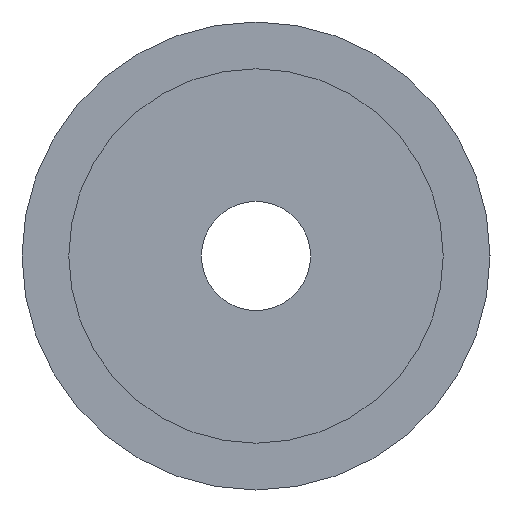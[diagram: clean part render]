
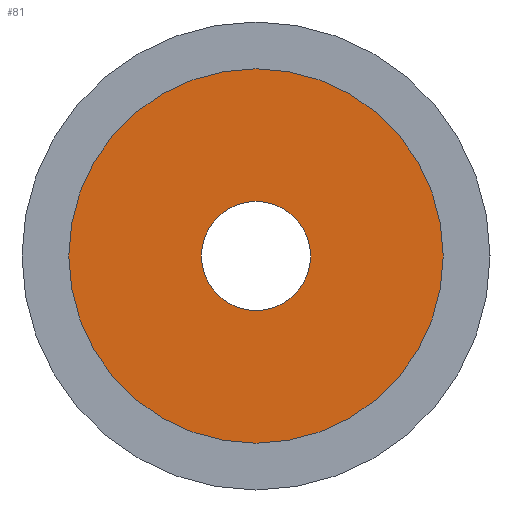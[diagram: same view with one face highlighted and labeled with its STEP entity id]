
A CAD part, left-side view. The second image highlights one B-rep face of the part: STEP entity #81.
In plain terms, the highlighted planar face has unit normal (-1, 0, 0).
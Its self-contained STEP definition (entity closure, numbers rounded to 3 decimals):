
#22 = VERTEX_POINT ( 'NONE', #134 ) ;
#24 = EDGE_CURVE ( 'NONE', #25, #22, #133, .T. ) ;
#25 = VERTEX_POINT ( 'NONE', #128 ) ;
#43 = VERTEX_POINT ( 'NONE', #254 ) ;
#49 = EDGE_CURVE ( 'NONE', #43, #50, #299, .T. ) ;
#50 = VERTEX_POINT ( 'NONE', #294 ) ;
#81 = ADVANCED_FACE ( 'NONE', ( #283, #282 ), #281, .F. ) ;
#82 = EDGE_LOOP ( 'NONE', ( #83, #85 ) ) ;
#83 = ORIENTED_EDGE ( 'NONE', *, *, #84, .F. ) ;
#84 = EDGE_CURVE ( 'NONE', #50, #43, #276, .T. ) ;
#85 = ORIENTED_EDGE ( 'NONE', *, *, #49, .F. ) ;
#86 = EDGE_LOOP ( 'NONE', ( #116, #117 ) ) ;
#116 = ORIENTED_EDGE ( 'NONE', *, *, #24, .T. ) ;
#117 = ORIENTED_EDGE ( 'NONE', *, *, #118, .T. ) ;
#118 = EDGE_CURVE ( 'NONE', #22, #25, #418, .T. ) ;
#128 = CARTESIAN_POINT ( 'NONE',  ( 0., 0., 3.5 ) ) ;
#129 = DIRECTION ( 'NONE',  ( 0., 0., -1. ) ) ;
#130 = DIRECTION ( 'NONE',  ( 1., 0., 0. ) ) ;
#131 = CARTESIAN_POINT ( 'NONE',  ( 0., 0., 0. ) ) ;
#132 = AXIS2_PLACEMENT_3D ( 'NONE', #131, #130, #129 ) ;
#133 = CIRCLE ( 'NONE', #132, 3.5 ) ;
#134 = CARTESIAN_POINT ( 'NONE',  ( 0., 0., -3.5 ) ) ;
#254 = CARTESIAN_POINT ( 'NONE',  ( 0., 0., -12. ) ) ;
#272 = DIRECTION ( 'NONE',  ( 0., 0., -1. ) ) ;
#273 = DIRECTION ( 'NONE',  ( 1., 0., 0. ) ) ;
#274 = CARTESIAN_POINT ( 'NONE',  ( 0., 0., 0. ) ) ;
#275 = AXIS2_PLACEMENT_3D ( 'NONE', #274, #273, #272 ) ;
#276 = CIRCLE ( 'NONE', #275, 12. ) ;
#277 = DIRECTION ( 'NONE',  ( 0., 0., -1. ) ) ;
#278 = DIRECTION ( 'NONE',  ( 1., 0., 0. ) ) ;
#279 = CARTESIAN_POINT ( 'NONE',  ( 0., 0., 0. ) ) ;
#280 = AXIS2_PLACEMENT_3D ( 'NONE', #279, #278, #277 ) ;
#281 = PLANE ( 'NONE',  #280 ) ;
#282 = FACE_BOUND ( 'NONE', #86, .T. ) ;
#283 = FACE_OUTER_BOUND ( 'NONE', #82, .T. ) ;
#294 = CARTESIAN_POINT ( 'NONE',  ( 0., 0., 12. ) ) ;
#295 = DIRECTION ( 'NONE',  ( 0., 0., -1. ) ) ;
#296 = DIRECTION ( 'NONE',  ( 1., 0., 0. ) ) ;
#297 = CARTESIAN_POINT ( 'NONE',  ( 0., 0., 0. ) ) ;
#298 = AXIS2_PLACEMENT_3D ( 'NONE', #297, #296, #295 ) ;
#299 = CIRCLE ( 'NONE', #298, 12. ) ;
#414 = DIRECTION ( 'NONE',  ( 0., 0., -1. ) ) ;
#415 = DIRECTION ( 'NONE',  ( 1., 0., 0. ) ) ;
#416 = CARTESIAN_POINT ( 'NONE',  ( 0., 0., 0. ) ) ;
#417 = AXIS2_PLACEMENT_3D ( 'NONE', #416, #415, #414 ) ;
#418 = CIRCLE ( 'NONE', #417, 3.5 ) ;
